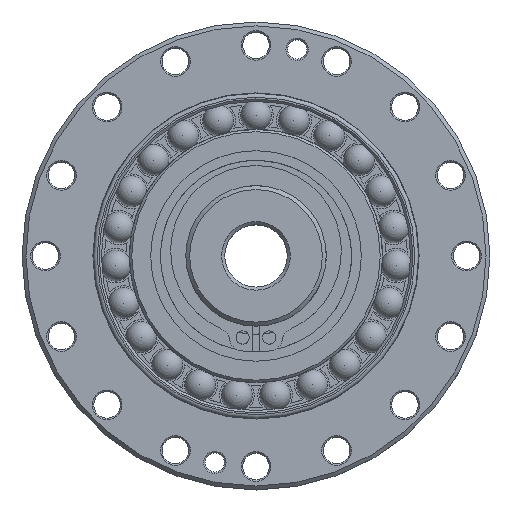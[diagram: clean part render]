
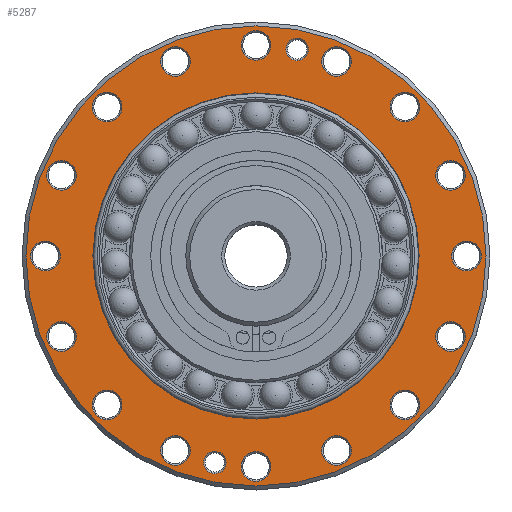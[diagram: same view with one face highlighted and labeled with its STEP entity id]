
A CAD part, top view. The second image highlights one B-rep face of the part: STEP entity #5287.
In plain terms, the highlighted planar face has unit normal (0, 0, 1).
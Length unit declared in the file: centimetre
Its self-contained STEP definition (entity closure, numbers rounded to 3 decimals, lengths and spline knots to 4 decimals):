
#734=FACE_BOUND($,#1698,.T.);
#735=FACE_BOUND($,#1699,.T.);
#736=FACE_BOUND($,#1700,.T.);
#737=FACE_BOUND($,#1701,.T.);
#738=FACE_BOUND($,#1702,.T.);
#739=FACE_BOUND($,#1703,.T.);
#740=FACE_BOUND($,#1704,.T.);
#741=FACE_BOUND($,#1705,.T.);
#742=FACE_BOUND($,#1706,.T.);
#743=FACE_BOUND($,#1707,.T.);
#744=FACE_BOUND($,#1708,.T.);
#745=FACE_BOUND($,#1709,.T.);
#746=FACE_BOUND($,#1710,.T.);
#747=FACE_BOUND($,#1711,.T.);
#748=FACE_BOUND($,#1712,.T.);
#749=FACE_BOUND($,#1713,.T.);
#750=FACE_BOUND($,#1714,.T.);
#751=FACE_BOUND($,#1715,.T.);
#752=FACE_BOUND($,#1716,.T.);
#753=FACE_BOUND($,#1717,.T.);
#1698=EDGE_LOOP($,(#4771));
#1699=EDGE_LOOP($,(#4772));
#1700=EDGE_LOOP($,(#4773));
#1701=EDGE_LOOP($,(#4774));
#1702=EDGE_LOOP($,(#4775));
#1703=EDGE_LOOP($,(#4776));
#1704=EDGE_LOOP($,(#4777));
#1705=EDGE_LOOP($,(#4778));
#1706=EDGE_LOOP($,(#4779));
#1707=EDGE_LOOP($,(#4780));
#1708=EDGE_LOOP($,(#4781));
#1709=EDGE_LOOP($,(#4782));
#1710=EDGE_LOOP($,(#4783));
#1711=EDGE_LOOP($,(#4784));
#1712=EDGE_LOOP($,(#4785));
#1713=EDGE_LOOP($,(#4786));
#1714=EDGE_LOOP($,(#4787));
#1715=EDGE_LOOP($,(#4788));
#1716=EDGE_LOOP($,(#4789));
#1717=EDGE_LOOP($,(#4790));
#2324=CIRCLE($,#6104,2.0915);
#2325=CIRCLE($,#6106,0.19);
#2326=CIRCLE($,#6107,0.19);
#2327=CIRCLE($,#6108,0.19);
#2328=CIRCLE($,#6109,0.19);
#2329=CIRCLE($,#6110,0.19);
#2330=CIRCLE($,#6111,0.19);
#2331=CIRCLE($,#6112,0.19);
#2332=CIRCLE($,#6113,0.19);
#2333=CIRCLE($,#6114,0.19);
#2334=CIRCLE($,#6115,0.19);
#2335=CIRCLE($,#6116,0.19);
#2336=CIRCLE($,#6117,0.19);
#2337=CIRCLE($,#6118,0.19);
#2338=CIRCLE($,#6119,0.19);
#2339=CIRCLE($,#6120,0.19);
#2340=CIRCLE($,#6121,0.19);
#2341=CIRCLE($,#6122,0.143);
#2342=CIRCLE($,#6123,0.143);
#2343=CIRCLE($,#6124,2.95);
#2783=VERTEX_POINT($,#9528);
#2784=VERTEX_POINT($,#9531);
#2785=VERTEX_POINT($,#9533);
#2786=VERTEX_POINT($,#9535);
#2787=VERTEX_POINT($,#9537);
#2788=VERTEX_POINT($,#9539);
#2789=VERTEX_POINT($,#9541);
#2790=VERTEX_POINT($,#9543);
#2791=VERTEX_POINT($,#9545);
#2792=VERTEX_POINT($,#9547);
#2793=VERTEX_POINT($,#9549);
#2794=VERTEX_POINT($,#9551);
#2795=VERTEX_POINT($,#9553);
#2796=VERTEX_POINT($,#9555);
#2797=VERTEX_POINT($,#9557);
#2798=VERTEX_POINT($,#9559);
#2799=VERTEX_POINT($,#9561);
#2800=VERTEX_POINT($,#9563);
#2801=VERTEX_POINT($,#9565);
#2802=VERTEX_POINT($,#9567);
#3442=EDGE_CURVE($,#2783,#2783,#2324,.T.);
#3443=EDGE_CURVE($,#2784,#2784,#2325,.T.);
#3444=EDGE_CURVE($,#2785,#2785,#2326,.T.);
#3445=EDGE_CURVE($,#2786,#2786,#2327,.T.);
#3446=EDGE_CURVE($,#2787,#2787,#2328,.T.);
#3447=EDGE_CURVE($,#2788,#2788,#2329,.T.);
#3448=EDGE_CURVE($,#2789,#2789,#2330,.T.);
#3449=EDGE_CURVE($,#2790,#2790,#2331,.T.);
#3450=EDGE_CURVE($,#2791,#2791,#2332,.T.);
#3451=EDGE_CURVE($,#2792,#2792,#2333,.T.);
#3452=EDGE_CURVE($,#2793,#2793,#2334,.T.);
#3453=EDGE_CURVE($,#2794,#2794,#2335,.T.);
#3454=EDGE_CURVE($,#2795,#2795,#2336,.T.);
#3455=EDGE_CURVE($,#2796,#2796,#2337,.T.);
#3456=EDGE_CURVE($,#2797,#2797,#2338,.T.);
#3457=EDGE_CURVE($,#2798,#2798,#2339,.T.);
#3458=EDGE_CURVE($,#2799,#2799,#2340,.T.);
#3459=EDGE_CURVE($,#2800,#2800,#2341,.T.);
#3460=EDGE_CURVE($,#2801,#2801,#2342,.T.);
#3461=EDGE_CURVE($,#2802,#2802,#2343,.T.);
#4771=ORIENTED_EDGE($,*,*,#3443,.F.);
#4772=ORIENTED_EDGE($,*,*,#3444,.F.);
#4773=ORIENTED_EDGE($,*,*,#3445,.F.);
#4774=ORIENTED_EDGE($,*,*,#3446,.F.);
#4775=ORIENTED_EDGE($,*,*,#3447,.F.);
#4776=ORIENTED_EDGE($,*,*,#3448,.F.);
#4777=ORIENTED_EDGE($,*,*,#3449,.F.);
#4778=ORIENTED_EDGE($,*,*,#3450,.F.);
#4779=ORIENTED_EDGE($,*,*,#3451,.F.);
#4780=ORIENTED_EDGE($,*,*,#3452,.F.);
#4781=ORIENTED_EDGE($,*,*,#3453,.F.);
#4782=ORIENTED_EDGE($,*,*,#3454,.F.);
#4783=ORIENTED_EDGE($,*,*,#3455,.F.);
#4784=ORIENTED_EDGE($,*,*,#3456,.F.);
#4785=ORIENTED_EDGE($,*,*,#3457,.F.);
#4786=ORIENTED_EDGE($,*,*,#3458,.F.);
#4787=ORIENTED_EDGE($,*,*,#3459,.F.);
#4788=ORIENTED_EDGE($,*,*,#3460,.F.);
#4789=ORIENTED_EDGE($,*,*,#3461,.F.);
#4790=ORIENTED_EDGE($,*,*,#3442,.T.);
#4997=PLANE($,#6105);
#5287=ADVANCED_FACE($,(#734,#735,#736,#737,#738,#739,#740,#741,#742,#743,
#744,#745,#746,#747,#748,#749,#750,#751,#752,#753),#4997,.T.);
#6104=AXIS2_PLACEMENT_3D($,#9529,#7860,#7861);
#6105=AXIS2_PLACEMENT_3D($,#9530,#7862,#7863);
#6106=AXIS2_PLACEMENT_3D($,#9532,#7864,#7865);
#6107=AXIS2_PLACEMENT_3D($,#9534,#7866,#7867);
#6108=AXIS2_PLACEMENT_3D($,#9536,#7868,#7869);
#6109=AXIS2_PLACEMENT_3D($,#9538,#7870,#7871);
#6110=AXIS2_PLACEMENT_3D($,#9540,#7872,#7873);
#6111=AXIS2_PLACEMENT_3D($,#9542,#7874,#7875);
#6112=AXIS2_PLACEMENT_3D($,#9544,#7876,#7877);
#6113=AXIS2_PLACEMENT_3D($,#9546,#7878,#7879);
#6114=AXIS2_PLACEMENT_3D($,#9548,#7880,#7881);
#6115=AXIS2_PLACEMENT_3D($,#9550,#7882,#7883);
#6116=AXIS2_PLACEMENT_3D($,#9552,#7884,#7885);
#6117=AXIS2_PLACEMENT_3D($,#9554,#7886,#7887);
#6118=AXIS2_PLACEMENT_3D($,#9556,#7888,#7889);
#6119=AXIS2_PLACEMENT_3D($,#9558,#7890,#7891);
#6120=AXIS2_PLACEMENT_3D($,#9560,#7892,#7893);
#6121=AXIS2_PLACEMENT_3D($,#9562,#7894,#7895);
#6122=AXIS2_PLACEMENT_3D($,#9564,#7896,#7897);
#6123=AXIS2_PLACEMENT_3D($,#9566,#7898,#7899);
#6124=AXIS2_PLACEMENT_3D($,#9568,#7900,#7901);
#7860=DIRECTION('center_axis',(0.,0.,-1.));
#7861=DIRECTION('ref_axis',(1.,0.,0.));
#7862=DIRECTION('center_axis',(0.,0.,1.));
#7863=DIRECTION('ref_axis',(1.,0.,0.));
#7864=DIRECTION('center_axis',(0.,0.,1.));
#7865=DIRECTION('ref_axis',(-1.,0.,0.));
#7866=DIRECTION('center_axis',(0.,0.,1.));
#7867=DIRECTION('ref_axis',(-1.,0.,0.));
#7868=DIRECTION('center_axis',(0.,0.,1.));
#7869=DIRECTION('ref_axis',(-1.,0.,0.));
#7870=DIRECTION('center_axis',(0.,0.,1.));
#7871=DIRECTION('ref_axis',(-1.,0.,0.));
#7872=DIRECTION('center_axis',(0.,0.,1.));
#7873=DIRECTION('ref_axis',(-1.,0.,0.));
#7874=DIRECTION('center_axis',(0.,0.,1.));
#7875=DIRECTION('ref_axis',(-1.,0.,0.));
#7876=DIRECTION('center_axis',(0.,0.,1.));
#7877=DIRECTION('ref_axis',(-1.,0.,0.));
#7878=DIRECTION('center_axis',(0.,0.,1.));
#7879=DIRECTION('ref_axis',(-1.,0.,0.));
#7880=DIRECTION('center_axis',(0.,0.,1.));
#7881=DIRECTION('ref_axis',(-1.,0.,0.));
#7882=DIRECTION('center_axis',(0.,0.,1.));
#7883=DIRECTION('ref_axis',(-1.,0.,0.));
#7884=DIRECTION('center_axis',(0.,0.,1.));
#7885=DIRECTION('ref_axis',(-1.,0.,0.));
#7886=DIRECTION('center_axis',(0.,0.,1.));
#7887=DIRECTION('ref_axis',(-1.,0.,0.));
#7888=DIRECTION('center_axis',(0.,0.,1.));
#7889=DIRECTION('ref_axis',(-1.,0.,0.));
#7890=DIRECTION('center_axis',(0.,0.,1.));
#7891=DIRECTION('ref_axis',(-1.,0.,0.));
#7892=DIRECTION('center_axis',(0.,0.,1.));
#7893=DIRECTION('ref_axis',(-1.,0.,0.));
#7894=DIRECTION('center_axis',(0.,0.,1.));
#7895=DIRECTION('ref_axis',(-1.,0.,0.));
#7896=DIRECTION('center_axis',(0.,0.,1.));
#7897=DIRECTION('ref_axis',(-1.,0.,0.));
#7898=DIRECTION('center_axis',(0.,0.,1.));
#7899=DIRECTION('ref_axis',(-1.,0.,0.));
#7900=DIRECTION('center_axis',(0.,0.,-1.));
#7901=DIRECTION('ref_axis',(0.,-1.,0.));
#9528=CARTESIAN_POINT('',(0.,-2.0915,0.));
#9529=CARTESIAN_POINT('Origin',(0.,0.,0.));
#9530=CARTESIAN_POINT('Origin',(0.,-2.1194,0.));
#9531=CARTESIAN_POINT('',(0.19,2.7,0.));
#9532=CARTESIAN_POINT('Origin',(0.,2.7,0.));
#9533=CARTESIAN_POINT('',(0.19,-2.7,0.));
#9534=CARTESIAN_POINT('Origin',(0.,-2.7,0.));
#9535=CARTESIAN_POINT('',(1.2232,2.4945,0.));
#9536=CARTESIAN_POINT('Origin',(1.0332,2.4945,0.));
#9537=CARTESIAN_POINT('',(2.0992,1.9092,0.));
#9538=CARTESIAN_POINT('Origin',(1.9092,1.9092,0.));
#9539=CARTESIAN_POINT('',(2.6845,1.0332,0.));
#9540=CARTESIAN_POINT('Origin',(2.4945,1.0332,0.));
#9541=CARTESIAN_POINT('',(2.89,0.,0.));
#9542=CARTESIAN_POINT('Origin',(2.7,0.,0.));
#9543=CARTESIAN_POINT('',(2.6845,-1.0332,0.));
#9544=CARTESIAN_POINT('Origin',(2.4945,-1.0332,0.));
#9545=CARTESIAN_POINT('',(2.0992,-1.9092,0.));
#9546=CARTESIAN_POINT('Origin',(1.9092,-1.9092,0.));
#9547=CARTESIAN_POINT('',(1.2232,-2.4945,0.));
#9548=CARTESIAN_POINT('Origin',(1.0332,-2.4945,0.));
#9549=CARTESIAN_POINT('',(-0.8432,-2.4945,0.));
#9550=CARTESIAN_POINT('Origin',(-1.0332,-2.4945,0.));
#9551=CARTESIAN_POINT('',(-1.7192,-1.9092,0.));
#9552=CARTESIAN_POINT('Origin',(-1.9092,-1.9092,0.));
#9553=CARTESIAN_POINT('',(-2.3045,-1.0332,0.));
#9554=CARTESIAN_POINT('Origin',(-2.4945,-1.0332,0.));
#9555=CARTESIAN_POINT('',(-2.51,0.,0.));
#9556=CARTESIAN_POINT('Origin',(-2.7,0.,0.));
#9557=CARTESIAN_POINT('',(-2.3045,1.0332,0.));
#9558=CARTESIAN_POINT('Origin',(-2.4945,1.0332,0.));
#9559=CARTESIAN_POINT('',(-1.7192,1.9092,0.));
#9560=CARTESIAN_POINT('Origin',(-1.9092,1.9092,0.));
#9561=CARTESIAN_POINT('',(-0.8432,2.4945,0.));
#9562=CARTESIAN_POINT('Origin',(-1.0332,2.4945,0.));
#9563=CARTESIAN_POINT('',(-0.3838,-2.6481,0.));
#9564=CARTESIAN_POINT('Origin',(-0.5267,-2.6481,0.));
#9565=CARTESIAN_POINT('',(0.6697,2.6481,0.));
#9566=CARTESIAN_POINT('Origin',(0.5267,2.6481,0.));
#9567=CARTESIAN_POINT('',(0.,2.95,0.));
#9568=CARTESIAN_POINT('Origin',(0.,0.,0.));
